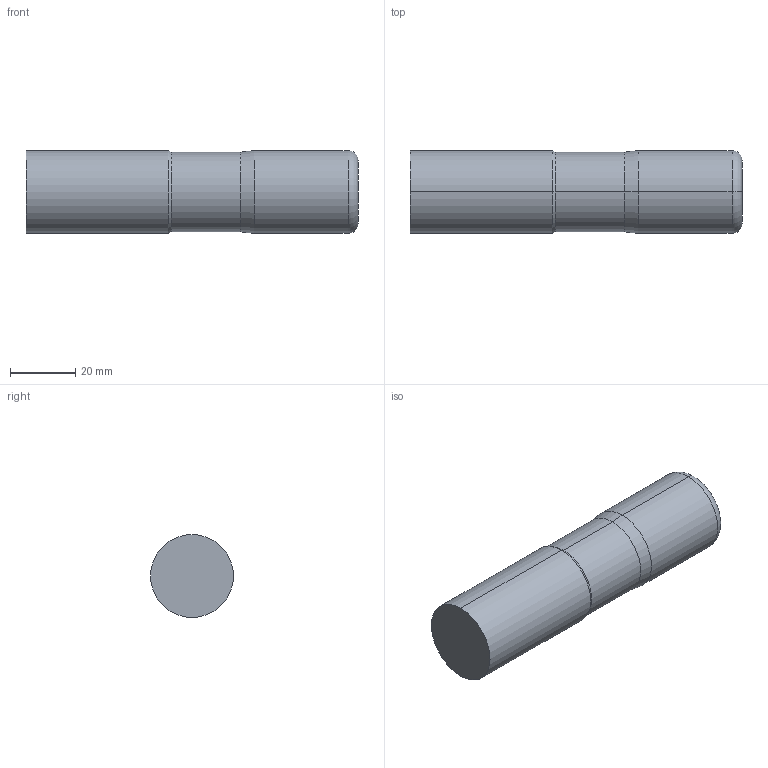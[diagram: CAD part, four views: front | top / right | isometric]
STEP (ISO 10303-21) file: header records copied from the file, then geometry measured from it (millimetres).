
FILE_DESCRIPTION (( 'STEP AP214' ), '1' );
FILE_NAME ('SSIRN71000-120.STEP', '2025-05-30T14:34:38', ( '' ), ( '' ), 'SwSTEP 2.0', 'SolidWorks 2023', '' );
FILE_SCHEMA (( 'AUTOMOTIVE_DESIGN' ));
Length unit declared in the file: inch
Products named in the file (3): SSIRN71000-120; SSI7 Cut Only_SSIRN71000-120; SSI7 Shank Only_SSIRN71000-120
Assembly tree (2 placements, depth 2):
  SSIRN71000-120
    SSI7 Cut Only_SSIRN71000-120
    SSI7 Shank Only_SSIRN71000-120
Bounding box: 101.6 x 25.4 x 25.4 mm (x, y, z)
Volume: 50385.9 mm3; surface area: 9962.8 mm2
Topology: 2 solids, 2 shells, 16 faces, 28 edges, 16 vertices
Faces by surface type: cylinder 6, plane 4, cone 4, torus 2
Entity records: 484 total; most frequent: DIRECTION 88, CARTESIAN_POINT 65, ORIENTED_EDGE 56, AXIS2_PLACEMENT_3D 39, EDGE_CURVE 28, CIRCLE 18, ADVANCED_FACE 16, VERTEX_POINT 16
